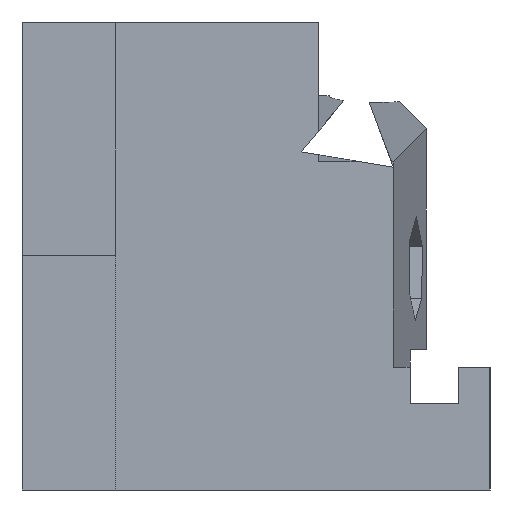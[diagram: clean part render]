
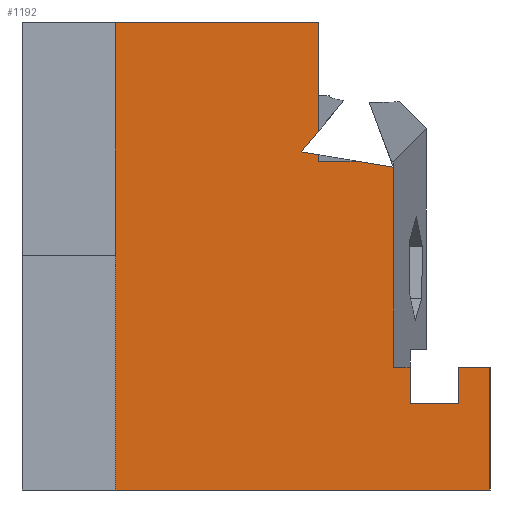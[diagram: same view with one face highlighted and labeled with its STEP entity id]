
A CAD part, left-side view. The second image highlights one B-rep face of the part: STEP entity #1192.
In plain terms, the highlighted planar face has unit normal (-1, 0, 0).
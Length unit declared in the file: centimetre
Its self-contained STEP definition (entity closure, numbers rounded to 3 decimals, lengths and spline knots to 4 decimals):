
#26 = ORIENTED_EDGE ( 'NONE', *, *, #333, .F. ) ;
#33 = VECTOR ( 'NONE', #473, 100. ) ;
#45 = DIRECTION ( 'NONE',  ( 0., 0., -1. ) ) ;
#63 = VERTEX_POINT ( 'NONE', #613 ) ;
#85 = VECTOR ( 'NONE', #639, 100. ) ;
#103 = EDGE_CURVE ( 'NONE', #896, #715, #163, .T. ) ;
#117 = VERTEX_POINT ( 'NONE', #1350 ) ;
#123 = CARTESIAN_POINT ( 'NONE',  ( 0., 170.591, 184.4697 ) ) ;
#129 = CARTESIAN_POINT ( 'NONE',  ( 0., 1000., 1000. ) ) ;
#139 = VECTOR ( 'NONE', #569, 100. ) ;
#141 = VECTOR ( 'NONE', #1271, 100. ) ;
#145 = LINE ( 'NONE', #458, #679 ) ;
#148 = LINE ( 'NONE', #881, #836 ) ;
#162 = VERTEX_POINT ( 'NONE', #1190 ) ;
#163 = LINE ( 'NONE', #595, #33 ) ;
#170 = EDGE_CURVE ( 'NONE', #892, #162, #653, .T. ) ;
#188 = LINE ( 'NONE', #618, #1064 ) ;
#192 = EDGE_CURVE ( 'NONE', #1244, #162, #1173, .T. ) ;
#197 = LINE ( 'NONE', #744, #141 ) ;
#212 = PLANE ( 'NONE',  #376 ) ;
#213 = CARTESIAN_POINT ( 'NONE',  ( 0., 800.6292, 0. ) ) ;
#220 = CARTESIAN_POINT ( 'NONE',  ( 0., 170.591, 184.4697 ) ) ;
#254 = DIRECTION ( 'NONE',  ( 0., 0., -1. ) ) ;
#291 = LINE ( 'NONE', #528, #1188 ) ;
#320 = VERTEX_POINT ( 'NONE', #1209 ) ;
#321 = LINE ( 'NONE', #561, #516 ) ;
#333 = EDGE_CURVE ( 'NONE', #532, #63, #1104, .T. ) ;
#334 = EDGE_CURVE ( 'NONE', #608, #772, #1090, .T. ) ;
#347 = EDGE_CURVE ( 'NONE', #586, #532, #148, .T. ) ;
#369 = EDGE_CURVE ( 'NONE', #320, #892, #793, .T. ) ;
#376 = AXIS2_PLACEMENT_3D ( 'NONE', #641, #1260, #407 ) ;
#407 = DIRECTION ( 'NONE',  ( 0., 0., -1. ) ) ;
#434 = CARTESIAN_POINT ( 'NONE',  ( 0., 276.1953, 876.2422 ) ) ;
#436 = ORIENTED_EDGE ( 'NONE', *, *, #103, .T. ) ;
#458 = CARTESIAN_POINT ( 'NONE',  ( 0., 366.4185, 701.02 ) ) ;
#466 = ORIENTED_EDGE ( 'NONE', *, *, #485, .F. ) ;
#473 = DIRECTION ( 'NONE',  ( 0., 0., 1. ) ) ;
#485 = EDGE_CURVE ( 'NONE', #117, #586, #609, .T. ) ;
#495 = ORIENTED_EDGE ( 'NONE', *, *, #170, .F. ) ;
#502 = CARTESIAN_POINT ( 'NONE',  ( 0., 275.2777, 701.02 ) ) ;
#503 = CARTESIAN_POINT ( 'NONE',  ( 0., 366.4185, 701.02 ) ) ;
#516 = VECTOR ( 'NONE', #1306, 100. ) ;
#528 = CARTESIAN_POINT ( 'NONE',  ( 0., 1000., 0. ) ) ;
#530 = EDGE_CURVE ( 'NONE', #896, #608, #321, .T. ) ;
#531 = ORIENTED_EDGE ( 'NONE', *, *, #1055, .F. ) ;
#532 = VERTEX_POINT ( 'NONE', #652 ) ;
#561 = CARTESIAN_POINT ( 'NONE',  ( 0., 206.374, 262.2327 ) ) ;
#567 = EDGE_CURVE ( 'NONE', #674, #63, #291, .T. ) ;
#569 = DIRECTION ( 'NONE',  ( 0., -1., 0. ) ) ;
#586 = VERTEX_POINT ( 'NONE', #822 ) ;
#588 = DIRECTION ( 'NONE',  ( 0., 0., -1. ) ) ;
#595 = CARTESIAN_POINT ( 'NONE',  ( 0., 206.374, 262.2327 ) ) ;
#598 = ORIENTED_EDGE ( 'NONE', *, *, #807, .T. ) ;
#608 = VERTEX_POINT ( 'NONE', #734 ) ;
#609 = LINE ( 'NONE', #1148, #698 ) ;
#613 = CARTESIAN_POINT ( 'NONE',  ( 0., 0., 0. ) ) ;
#614 = DIRECTION ( 'NONE',  ( 0., 0., 1. ) ) ;
#618 = CARTESIAN_POINT ( 'NONE',  ( 0., 403.0182, 722.3983 ) ) ;
#622 = EDGE_LOOP ( 'NONE', ( #1251, #629, #1072, #26, #1226, #466, #1378, #806, #1097, #436, #1325, #1000, #531, #598, #704, #495 ) ) ;
#629 = ORIENTED_EDGE ( 'NONE', *, *, #998, .F. ) ;
#639 = DIRECTION ( 'NONE',  ( 0., -0.636, 0.772 ) ) ;
#641 = CARTESIAN_POINT ( 'NONE',  ( 0., 1000., 1000. ) ) ;
#647 = VECTOR ( 'NONE', #1284, 100. ) ;
#652 = CARTESIAN_POINT ( 'NONE',  ( 0., 0., 262.2327 ) ) ;
#653 = LINE ( 'NONE', #824, #1068 ) ;
#674 = VERTEX_POINT ( 'NONE', #213 ) ;
#679 = VECTOR ( 'NONE', #254, 100. ) ;
#696 = CARTESIAN_POINT ( 'NONE',  ( 0., 403.0182, 722.3983 ) ) ;
#698 = VECTOR ( 'NONE', #614, 100. ) ;
#704 = ORIENTED_EDGE ( 'NONE', *, *, #192, .T. ) ;
#710 = CARTESIAN_POINT ( 'NONE',  ( 0., 206.374, 262.2327 ) ) ;
#715 = VERTEX_POINT ( 'NONE', #864 ) ;
#730 = VECTOR ( 'NONE', #1029, 100. ) ;
#732 = LINE ( 'NONE', #955, #730 ) ;
#734 = CARTESIAN_POINT ( 'NONE',  ( 0., 170.591, 262.2327 ) ) ;
#738 = CARTESIAN_POINT ( 'NONE',  ( 0., 67.0158, 184.4697 ) ) ;
#744 = CARTESIAN_POINT ( 'NONE',  ( 0., 403.0182, 722.3983 ) ) ;
#764 = EDGE_CURVE ( 'NONE', #1363, #904, #732, .T. ) ;
#772 = VERTEX_POINT ( 'NONE', #220 ) ;
#793 = LINE ( 'NONE', #129, #139 ) ;
#806 = ORIENTED_EDGE ( 'NONE', *, *, #334, .F. ) ;
#807 = EDGE_CURVE ( 'NONE', #1331, #1244, #197, .T. ) ;
#808 = LINE ( 'NONE', #738, #838 ) ;
#811 = CARTESIAN_POINT ( 'NONE',  ( 0., 366.4185, 1000. ) ) ;
#822 = CARTESIAN_POINT ( 'NONE',  ( 0., 67.0158, 262.2327 ) ) ;
#824 = CARTESIAN_POINT ( 'NONE',  ( 0., 366.4185, 701.02 ) ) ;
#836 = VECTOR ( 'NONE', #875, 100. ) ;
#838 = VECTOR ( 'NONE', #1141, 100. ) ;
#841 = CARTESIAN_POINT ( 'NONE',  ( 0., 800.6292, 0. ) ) ;
#864 = CARTESIAN_POINT ( 'NONE',  ( 0., 206.374, 689.4885 ) ) ;
#875 = DIRECTION ( 'NONE',  ( 0., -1., 0. ) ) ;
#878 = VECTOR ( 'NONE', #45, 100. ) ;
#881 = CARTESIAN_POINT ( 'NONE',  ( 0., 206.374, 262.2327 ) ) ;
#892 = VERTEX_POINT ( 'NONE', #811 ) ;
#896 = VERTEX_POINT ( 'NONE', #710 ) ;
#904 = VERTEX_POINT ( 'NONE', #502 ) ;
#948 = LINE ( 'NONE', #841, #647 ) ;
#955 = CARTESIAN_POINT ( 'NONE',  ( 0., 366.4185, 701.02 ) ) ;
#969 = DIRECTION ( 'NONE',  ( 0., 0., -1. ) ) ;
#998 = EDGE_CURVE ( 'NONE', #674, #320, #948, .T. ) ;
#1000 = ORIENTED_EDGE ( 'NONE', *, *, #764, .F. ) ;
#1015 = EDGE_CURVE ( 'NONE', #772, #117, #808, .T. ) ;
#1020 = CARTESIAN_POINT ( 'NONE',  ( 0., 366.4185, 716.2731 ) ) ;
#1029 = DIRECTION ( 'NONE',  ( 0., -1., 0. ) ) ;
#1055 = EDGE_CURVE ( 'NONE', #1331, #1363, #145, .T. ) ;
#1064 = VECTOR ( 'NONE', #1210, 100. ) ;
#1068 = VECTOR ( 'NONE', #969, 100. ) ;
#1072 = ORIENTED_EDGE ( 'NONE', *, *, #567, .T. ) ;
#1079 = VECTOR ( 'NONE', #588, 100. ) ;
#1090 = LINE ( 'NONE', #123, #878 ) ;
#1097 = ORIENTED_EDGE ( 'NONE', *, *, #530, .F. ) ;
#1104 = LINE ( 'NONE', #1334, #1079 ) ;
#1141 = DIRECTION ( 'NONE',  ( 0., -1., 0. ) ) ;
#1148 = CARTESIAN_POINT ( 'NONE',  ( 0., 67.0158, 184.4697 ) ) ;
#1151 = DIRECTION ( 'NONE',  ( 0., -1., 0. ) ) ;
#1173 = LINE ( 'NONE', #434, #85 ) ;
#1180 = EDGE_CURVE ( 'NONE', #715, #904, #188, .T. ) ;
#1188 = VECTOR ( 'NONE', #1151, 100. ) ;
#1190 = CARTESIAN_POINT ( 'NONE',  ( 0., 366.4185, 766.796 ) ) ;
#1192 = ADVANCED_FACE ( 'NONE', ( #1404 ), #212, .F. ) ;
#1209 = CARTESIAN_POINT ( 'NONE',  ( 0., 800.6292, 1000. ) ) ;
#1210 = DIRECTION ( 'NONE',  ( 0., 0.986, 0.165 ) ) ;
#1226 = ORIENTED_EDGE ( 'NONE', *, *, #347, .F. ) ;
#1244 = VERTEX_POINT ( 'NONE', #696 ) ;
#1251 = ORIENTED_EDGE ( 'NONE', *, *, #369, .F. ) ;
#1260 = DIRECTION ( 'NONE',  ( 1., 0., 0. ) ) ;
#1271 = DIRECTION ( 'NONE',  ( 0., 0.986, 0.165 ) ) ;
#1284 = DIRECTION ( 'NONE',  ( 0., 0., 1. ) ) ;
#1306 = DIRECTION ( 'NONE',  ( 0., -1., 0. ) ) ;
#1325 = ORIENTED_EDGE ( 'NONE', *, *, #1180, .T. ) ;
#1331 = VERTEX_POINT ( 'NONE', #1020 ) ;
#1334 = CARTESIAN_POINT ( 'NONE',  ( 0., 0., 1000. ) ) ;
#1350 = CARTESIAN_POINT ( 'NONE',  ( 0., 67.0158, 184.4697 ) ) ;
#1363 = VERTEX_POINT ( 'NONE', #503 ) ;
#1378 = ORIENTED_EDGE ( 'NONE', *, *, #1015, .F. ) ;
#1404 = FACE_OUTER_BOUND ( 'NONE', #622, .T. ) ;
